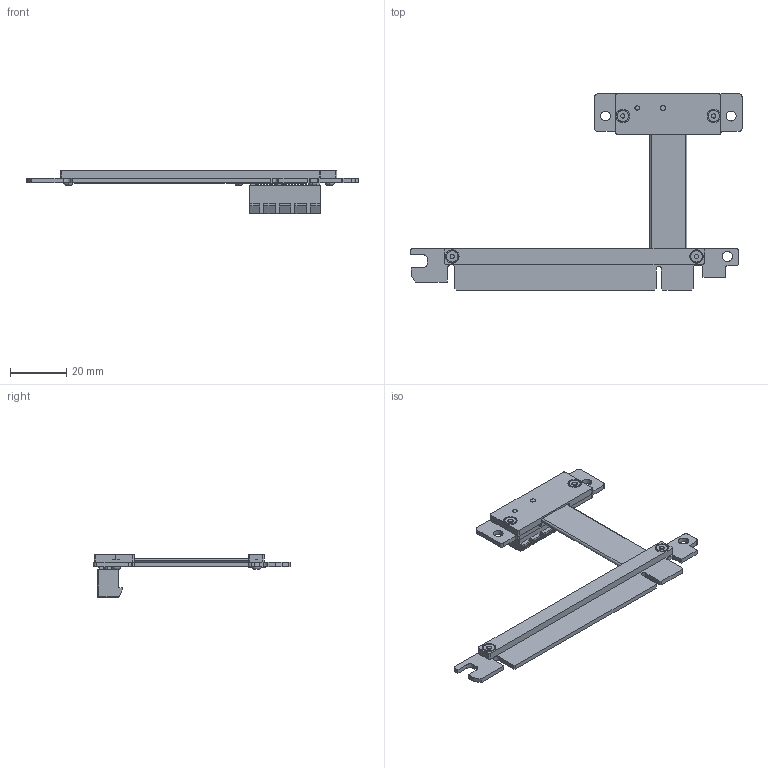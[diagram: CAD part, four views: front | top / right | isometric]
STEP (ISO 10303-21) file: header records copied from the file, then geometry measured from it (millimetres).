
FILE_DESCRIPTION(('Open CASCADE Model'),'2;1');
FILE_NAME('Open CASCADE Shape Model','2020-03-17T21:32:43',('Author'),( 'Open CASCADE'),'Open CASCADE STEP processor 6.8','Open CASCADE 6.8' ,'Unknown');
FILE_SCHEMA(('AUTOMOTIVE_DESIGN { 1 0 10303 214 1 1 1 1 }'));
Length unit declared in the file: millimetre
Products named in the file (15): PCB; Board; Open CASCADE STEP translator 6.8 4.1.1; Free-Models; Tape14x5_RGB0; TE_PCIe_Express_x1_(2.3mm_Pins)_RGB4404530; PCIe_Body_PCIe_x1; Pins_Internal_Pin_(Short); Pins_External_Pin_(Short); RP11R-PAD; Hexagon_nut_ISO_4032_(DIN_934)_-_M2_RGB9411503; G0033_RGB9411503; RP33S-PAD; tape-3P_RGB0; cable20-43-r
Assembly tree (54 placements, depth 4):
  PCB
    Board
      Open CASCADE STEP translator 6.8 4.1.1
    Free-Models
      Tape14x5_RGB0
      TE_PCIe_Express_x1_(2.3mm_Pins)_RGB4404530
        PCIe_Body_PCIe_x1
        Pins_Internal_Pin_(Short)  x18
        Pins_External_Pin_(Short)  x18
      RP11R-PAD
      Hexagon_nut_ISO_4032_(DIN_934)_-_M2_RGB9411503  x4
      G0033_RGB9411503  x4
      RP33S-PAD
      tape-3P_RGB0
      cable20-43-r
Bounding box: 117.55 x 69.47 x 15.4 mm (x, y, z)
Volume: 7250.3 mm3; surface area: 16524.8 mm2
Topology: 91 solids, 91 shells, 2427 faces, 6583 edges, 4323 vertices
Faces by surface type: plane 1340, cylinder 945, torus 80, cone 52, revolution 8, sphere 2
Full cylindrical faces by diameter (mm): 0.6 x133, 0.7 x36, 1.2 x4, 1.6 x35, 2 x4, 2.2 x8, 2.35 x2, 2.4 x2, 3.5 x2, 3.6 x1, 4.8 x4
Entity records: 48709 total; most frequent: CARTESIAN_POINT 7986, DIRECTION 7836, ORIENTED_EDGE 7618, EDGE_CURVE 3809, AXIS2_PLACEMENT_3D 2655, LINE 2524, VECTOR 2524, VERTEX_POINT 2487
